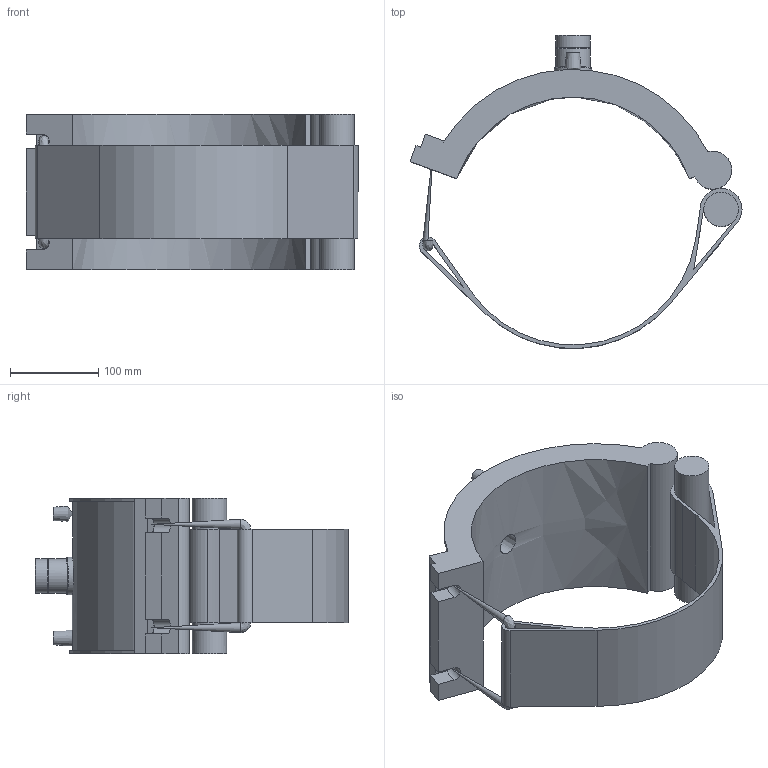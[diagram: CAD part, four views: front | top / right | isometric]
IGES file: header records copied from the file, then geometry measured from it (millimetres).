
Global section: file name: 5938D00310060.ipt; native system: Autodesk Inventor 2019; preprocessor: unknown; author: KIM; date: 20210830.101149; units: inch
Bounding box: 376.03 x 354.57 x 176.02 mm (x, y, z)
Volume: 2776997.1 mm3; surface area: 382268.1 mm2
Topology: 2 solids, 3 shells, 78 faces, 192 edges, 126 vertices
Faces by surface type: plane 42, cylinder 19, revolution 11, cone 5, bspline 1
Full cylindrical faces by diameter (mm): 4 x2, 11.224 x2, 38.378 x1, 39.068 x1, 39.378 x2, 42.407 x1
